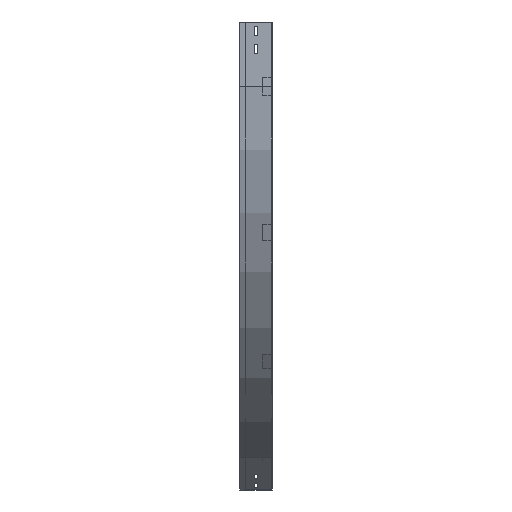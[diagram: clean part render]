
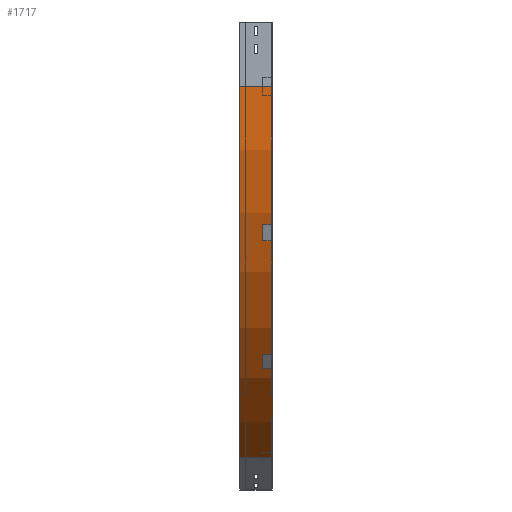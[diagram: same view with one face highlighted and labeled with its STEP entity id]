
A CAD part, left-side view. The second image highlights one B-rep face of the part: STEP entity #1717.
In plain terms, the highlighted cylindrical face has radius 1000 mm (diameter 2000 mm), a partial arc.
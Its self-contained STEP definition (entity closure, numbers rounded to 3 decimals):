
#8 = EDGE_CURVE ( 'NONE', #1685, #1190, #3631, .T. ) ;
#297 = EDGE_CURVE ( 'NONE', #1602, #1685, #1126, .T. ) ;
#366 = CARTESIAN_POINT ( 'NONE',  ( 500., 75., -1016.025 ) ) ;
#380 = DIRECTION ( 'NONE',  ( 0., -1., 0. ) ) ;
#421 = FACE_OUTER_BOUND ( 'NONE', #3743, .T. ) ;
#589 = VECTOR ( 'NONE', #1009, 1000. ) ;
#769 = VECTOR ( 'NONE', #1442, 1000. ) ;
#1009 = DIRECTION ( 'NONE',  ( 0., -1., 0. ) ) ;
#1050 = CARTESIAN_POINT ( 'NONE',  ( 500., 0., -1016.025 ) ) ;
#1126 = LINE ( 'NONE', #1686, #769 ) ;
#1190 = VERTEX_POINT ( 'NONE', #1766 ) ;
#1344 = EDGE_CURVE ( 'NONE', #2405, #1190, #1584, .T. ) ;
#1387 = DIRECTION ( 'NONE',  ( -1., 0., 0. ) ) ;
#1442 = DIRECTION ( 'NONE',  ( 0., -1., 0. ) ) ;
#1443 = DIRECTION ( 'NONE',  ( 0., -1., 0. ) ) ;
#1476 = EDGE_CURVE ( 'NONE', #1602, #2405, #2936, .T. ) ;
#1584 = LINE ( 'NONE', #1050, #589 ) ;
#1602 = VERTEX_POINT ( 'NONE', #1914 ) ;
#1682 = ORIENTED_EDGE ( 'NONE', *, *, #1476, .T. ) ;
#1685 = VERTEX_POINT ( 'NONE', #2130 ) ;
#1686 = CARTESIAN_POINT ( 'NONE',  ( 0., 0., -150. ) ) ;
#1717 = ADVANCED_FACE ( 'NONE', ( #421 ), #1935, .T. ) ;
#1766 = CARTESIAN_POINT ( 'NONE',  ( 500., 0., -1016.025 ) ) ;
#1914 = CARTESIAN_POINT ( 'NONE',  ( 0., 75., -150. ) ) ;
#1935 = CYLINDRICAL_SURFACE ( 'NONE', #2278, 1000. ) ;
#2130 = CARTESIAN_POINT ( 'NONE',  ( 0., 0., -150. ) ) ;
#2152 = CARTESIAN_POINT ( 'NONE',  ( 1000., 0., -150. ) ) ;
#2168 = CARTESIAN_POINT ( 'NONE',  ( 1000., 0., -150. ) ) ;
#2278 = AXIS2_PLACEMENT_3D ( 'NONE', #2168, #380, #3346 ) ;
#2405 = VERTEX_POINT ( 'NONE', #366 ) ;
#2684 = ORIENTED_EDGE ( 'NONE', *, *, #1344, .T. ) ;
#2816 = AXIS2_PLACEMENT_3D ( 'NONE', #2895, #1443, #1387 ) ;
#2895 = CARTESIAN_POINT ( 'NONE',  ( 1000., 75., -150. ) ) ;
#2936 = CIRCLE ( 'NONE', #2816, 1000. ) ;
#3023 = AXIS2_PLACEMENT_3D ( 'NONE', #2152, #3277, #3623 ) ;
#3277 = DIRECTION ( 'NONE',  ( 0., -1., 0. ) ) ;
#3346 = DIRECTION ( 'NONE',  ( 0., 0., -1. ) ) ;
#3606 = ORIENTED_EDGE ( 'NONE', *, *, #8, .F. ) ;
#3623 = DIRECTION ( 'NONE',  ( -1., 0., 0. ) ) ;
#3631 = CIRCLE ( 'NONE', #3023, 1000. ) ;
#3743 = EDGE_LOOP ( 'NONE', ( #3606, #3792, #1682, #2684 ) ) ;
#3792 = ORIENTED_EDGE ( 'NONE', *, *, #297, .F. ) ;
